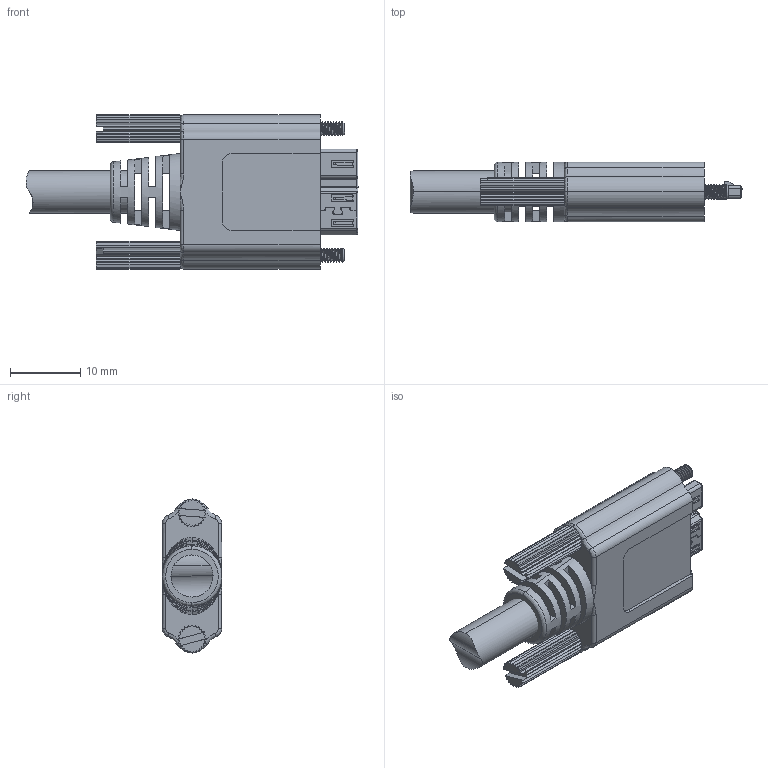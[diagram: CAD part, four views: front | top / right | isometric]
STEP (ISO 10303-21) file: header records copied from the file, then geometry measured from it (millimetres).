
FILE_DESCRIPTION (( 'STEP AP214' ), '1' );
FILE_NAME ('USB3-2.STEP', '2023-06-27T04:58:52', ( '' ), ( '' ), 'SwSTEP 2.0', 'SolidWorks 2021', '' );
FILE_SCHEMA (( 'AUTOMOTIVE_DESIGN' ));
Length unit declared in the file: millimetre
Products named in the file (5): USB3-2; USB3-2 Thumb Srew; USB3.0 MicroB Plug; USB3-2 Overmold; MI_Cable_NaN
Assembly tree (5 placements, depth 2):
  USB3-2
    USB3.0 MicroB Plug
    USB3-2 Overmold
    USB3-2 Thumb Srew  x2
    MI_Cable_NaN
Bounding box: 47.4 x 8.5 x 22 mm (x, y, z)
Volume: 4262.8 mm3; surface area: 3686.1 mm2
Topology: 7 solids, 7 shells, 541 faces, 1521 edges, 997 vertices
Faces by surface type: plane 276, cylinder 114, cone 106, bspline 43, torus 2
Entity records: 33983 total; most frequent: CARTESIAN_POINT 19105, ORIENTED_EDGE 2324, DIRECTION 1827, EDGE_CURVE 1162, VERTEX_POINT 761, AXIS2_PLACEMENT_3D 621, LINE 585, VECTOR 585
